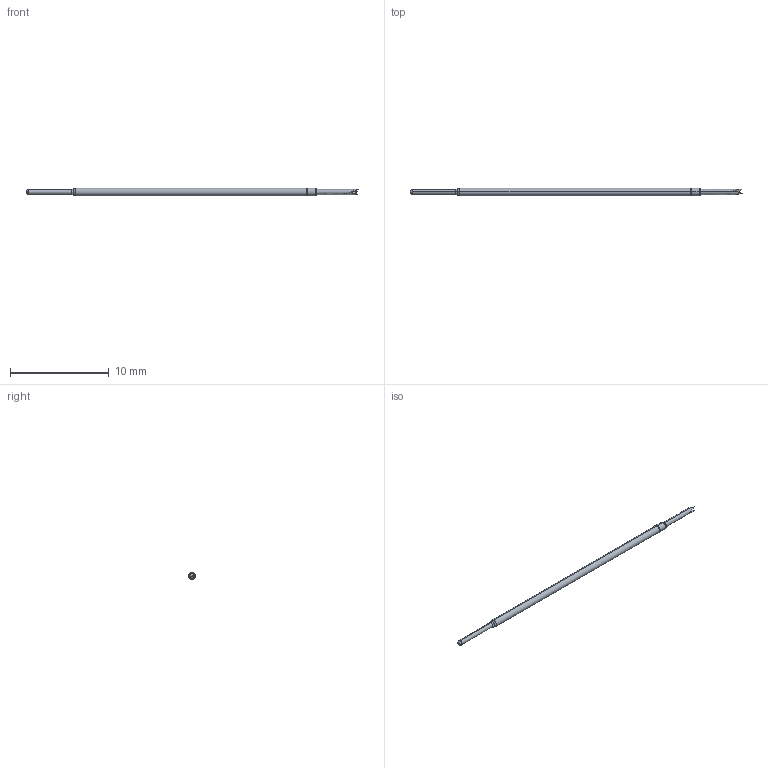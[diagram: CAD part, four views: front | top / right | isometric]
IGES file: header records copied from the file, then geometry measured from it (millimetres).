
Start section: SolidWorks IGES file using analytic representation for surfaces
Global section: file name: C:\Documents and Settings\mrumschlag\Desktop\changes\new\test\U RECD.IGS; native system: SolidWorks 2011; preprocessor: SolidWorks 2011; author: mrumschlag; date: 110630.142728; units: inch
Bounding box: 33.69 x 0.76 x 0.76 mm (x, y, z)
Surface area: 74 mm2 (no closed solid volume)
Topology: 0 solids, 0 shells, 29 faces, 182 edges, 180 vertices
Faces by surface type: bspline 15, revolution 14
